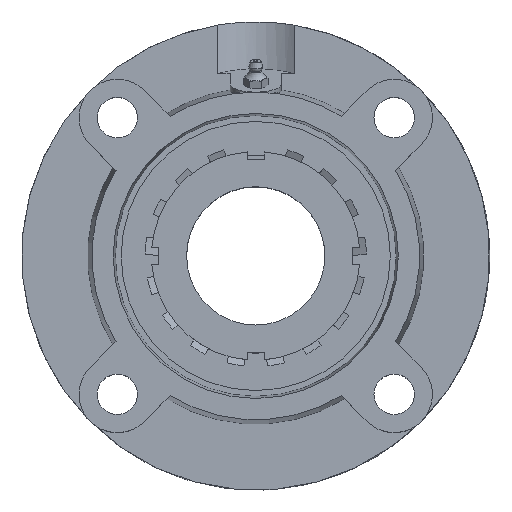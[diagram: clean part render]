
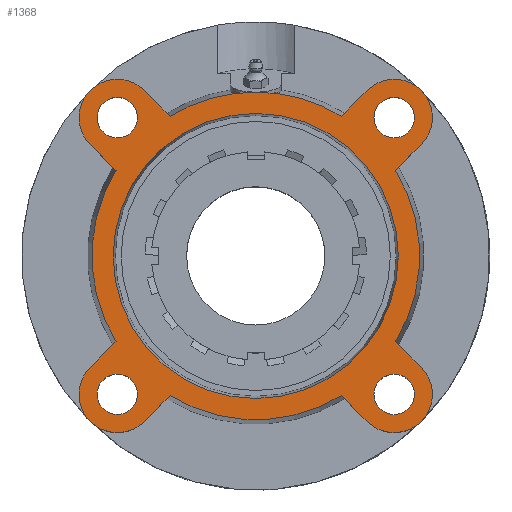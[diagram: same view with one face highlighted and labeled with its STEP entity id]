
A CAD part, top view. The second image highlights one B-rep face of the part: STEP entity #1368.
In plain terms, the highlighted planar face has unit normal (0, 0, 1).
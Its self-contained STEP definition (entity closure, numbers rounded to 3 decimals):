
#181=CARTESIAN_POINT('',(-55.554,-65.054,24.));
#182=VERTEX_POINT('',#181);
#183=CARTESIAN_POINT('',(-65.054,-65.054,24.));
#184=DIRECTION('',(0.0,0.0,-1.0));
#185=DIRECTION('',(1.0,0.0,0.0));
#186=AXIS2_PLACEMENT_3D('',#183,#184,#185);
#187=CIRCLE('',#186,9.5);
#188=EDGE_CURVE('',#182,#182,#187,.T.);
#209=CARTESIAN_POINT('',(-55.554,65.054,24.));
#210=VERTEX_POINT('',#209);
#211=CARTESIAN_POINT('',(-65.054,65.054,24.));
#212=DIRECTION('',(0.0,0.0,-1.0));
#213=DIRECTION('',(1.0,0.0,0.0));
#214=AXIS2_PLACEMENT_3D('',#211,#212,#213);
#215=CIRCLE('',#214,9.5);
#216=EDGE_CURVE('',#210,#210,#215,.T.);
#237=CARTESIAN_POINT('',(74.554,65.054,24.));
#238=VERTEX_POINT('',#237);
#239=CARTESIAN_POINT('',(65.054,65.054,24.));
#240=DIRECTION('',(0.0,0.0,-1.0));
#241=DIRECTION('',(1.0,0.0,0.0));
#242=AXIS2_PLACEMENT_3D('',#239,#240,#241);
#243=CIRCLE('',#242,9.5);
#244=EDGE_CURVE('',#238,#238,#243,.T.);
#265=CARTESIAN_POINT('',(74.554,-65.054,24.));
#266=VERTEX_POINT('',#265);
#267=CARTESIAN_POINT('',(65.054,-65.054,24.));
#268=DIRECTION('',(0.0,0.0,-1.0));
#269=DIRECTION('',(1.0,0.0,0.0));
#270=AXIS2_PLACEMENT_3D('',#267,#268,#269);
#271=CIRCLE('',#270,9.5);
#272=EDGE_CURVE('',#266,#266,#271,.T.);
#373=CARTESIAN_POINT('',(0.0,67.0,24.));
#374=VERTEX_POINT('',#373);
#375=CARTESIAN_POINT('',(0.0,0.,24.0));
#376=DIRECTION('',(0.0,0.0,-1.0));
#377=DIRECTION('',(0.0,1.0,0.0));
#378=AXIS2_PLACEMENT_3D('',#375,#376,#377);
#379=CIRCLE('',#378,67.);
#380=EDGE_CURVE('',#374,#374,#379,.T.);
#666=CARTESIAN_POINT('',(0.,77.0,24.));
#667=VERTEX_POINT('',#666);
#824=CARTESIAN_POINT('',(-40.211,65.667,24.));
#825=VERTEX_POINT('',#824);
#839=CARTESIAN_POINT('',(0.0,0.,24.0));
#840=DIRECTION('',(0.0,0.0,1.0));
#841=DIRECTION('',(0.0,-1.0,0.0));
#842=AXIS2_PLACEMENT_3D('',#839,#840,#841);
#843=CIRCLE('',#842,77.0);
#844=EDGE_CURVE('',#667,#825,#843,.T.);
#854=CARTESIAN_POINT('',(-40.211,-65.667,24.));
#855=VERTEX_POINT('',#854);
#871=CARTESIAN_POINT('',(-52.326,-77.782,24.));
#872=VERTEX_POINT('',#871);
#873=CARTESIAN_POINT('',(-40.211,-65.667,24.));
#874=DIRECTION('',(-0.707,-0.707,0.));
#875=VECTOR('',#874,17.133);
#876=LINE('',#873,#875);
#877=EDGE_CURVE('',#855,#872,#876,.T.);
#901=CARTESIAN_POINT('',(-65.667,40.211,24.));
#902=VERTEX_POINT('',#901);
#918=CARTESIAN_POINT('',(-77.782,52.326,24.));
#919=VERTEX_POINT('',#918);
#920=CARTESIAN_POINT('',(-65.667,40.211,24.));
#921=DIRECTION('',(-0.707,0.707,0.));
#922=VECTOR('',#921,17.133);
#923=LINE('',#920,#922);
#924=EDGE_CURVE('',#902,#919,#923,.T.);
#948=CARTESIAN_POINT('',(65.667,-40.211,24.));
#949=VERTEX_POINT('',#948);
#965=CARTESIAN_POINT('',(77.782,-52.326,24.));
#966=VERTEX_POINT('',#965);
#967=CARTESIAN_POINT('',(65.667,-40.211,24.));
#968=DIRECTION('',(0.707,-0.707,0.));
#969=VECTOR('',#968,17.133);
#970=LINE('',#967,#969);
#971=EDGE_CURVE('',#949,#966,#970,.T.);
#995=CARTESIAN_POINT('',(40.211,65.667,24.));
#996=VERTEX_POINT('',#995);
#1010=CARTESIAN_POINT('',(52.326,77.782,24.));
#1011=VERTEX_POINT('',#1010);
#1012=CARTESIAN_POINT('',(40.211,65.667,24.));
#1013=DIRECTION('',(0.707,0.707,0.));
#1014=VECTOR('',#1013,17.133);
#1015=LINE('',#1012,#1014);
#1016=EDGE_CURVE('',#996,#1011,#1015,.T.);
#1035=CARTESIAN_POINT('',(65.667,40.211,24.));
#1036=VERTEX_POINT('',#1035);
#1058=CARTESIAN_POINT('',(77.782,52.326,24.));
#1059=VERTEX_POINT('',#1058);
#1066=CARTESIAN_POINT('',(77.782,52.326,24.));
#1067=DIRECTION('',(-0.707,-0.707,0.));
#1068=VECTOR('',#1067,17.133);
#1069=LINE('',#1066,#1068);
#1070=EDGE_CURVE('',#1059,#1036,#1069,.T.);
#1080=CARTESIAN_POINT('',(-77.782,-52.326,24.));
#1081=VERTEX_POINT('',#1080);
#1082=CARTESIAN_POINT('',(-65.054,-65.054,24.0));
#1083=DIRECTION('',(0.0,0.0,-1.0));
#1084=DIRECTION('',(-0.707,0.707,0.0));
#1085=AXIS2_PLACEMENT_3D('',#1082,#1083,#1084);
#1086=CIRCLE('',#1085,18.);
#1087=EDGE_CURVE('',#872,#1081,#1086,.T.);
#1122=CARTESIAN_POINT('',(-65.667,-40.211,24.));
#1123=VERTEX_POINT('',#1122);
#1144=CARTESIAN_POINT('',(-77.782,-52.326,24.));
#1145=DIRECTION('',(0.707,0.707,0.));
#1146=VECTOR('',#1145,17.133);
#1147=LINE('',#1144,#1146);
#1148=EDGE_CURVE('',#1081,#1123,#1147,.T.);
#1158=CARTESIAN_POINT('',(-52.326,77.782,24.));
#1159=VERTEX_POINT('',#1158);
#1160=CARTESIAN_POINT('',(-65.054,65.054,24.0));
#1161=DIRECTION('',(0.0,0.0,-1.0));
#1162=DIRECTION('',(0.707,0.707,0.0));
#1163=AXIS2_PLACEMENT_3D('',#1160,#1161,#1162);
#1164=CIRCLE('',#1163,18.0);
#1165=EDGE_CURVE('',#919,#1159,#1164,.T.);
#1193=CARTESIAN_POINT('',(-52.326,77.782,24.));
#1194=DIRECTION('',(0.707,-0.707,0.));
#1195=VECTOR('',#1194,17.133);
#1196=LINE('',#1193,#1195);
#1197=EDGE_CURVE('',#1159,#825,#1196,.T.);
#1207=CARTESIAN_POINT('',(52.326,-77.782,24.));
#1208=VERTEX_POINT('',#1207);
#1209=CARTESIAN_POINT('',(65.054,-65.054,24.0));
#1210=DIRECTION('',(0.0,0.0,-1.0));
#1211=DIRECTION('',(-0.707,-0.707,0.0));
#1212=AXIS2_PLACEMENT_3D('',#1209,#1210,#1211);
#1213=CIRCLE('',#1212,18.0);
#1214=EDGE_CURVE('',#966,#1208,#1213,.T.);
#1249=CARTESIAN_POINT('',(40.211,-65.667,24.));
#1250=VERTEX_POINT('',#1249);
#1271=CARTESIAN_POINT('',(52.326,-77.782,24.));
#1272=DIRECTION('',(-0.707,0.707,0.));
#1273=VECTOR('',#1272,17.133);
#1274=LINE('',#1271,#1273);
#1275=EDGE_CURVE('',#1208,#1250,#1274,.T.);
#1285=CARTESIAN_POINT('',(65.054,65.054,24.0));
#1286=DIRECTION('',(0.0,0.0,-1.0));
#1287=DIRECTION('',(0.707,-0.707,0.0));
#1288=AXIS2_PLACEMENT_3D('',#1285,#1286,#1287);
#1289=CIRCLE('',#1288,18.);
#1290=EDGE_CURVE('',#1011,#1059,#1289,.T.);
#1305=CARTESIAN_POINT('',(0.0,-38.5,24.));
#1306=DIRECTION('',(0.0,0.0,1.0));
#1307=DIRECTION('',(1.0,0.0,0.0));
#1308=AXIS2_PLACEMENT_3D('',#1305,#1306,#1307);
#1309=PLANE('',#1308);
#1310=CARTESIAN_POINT('',(0.0,0.,24.0));
#1311=DIRECTION('',(0.0,0.0,1.0));
#1312=DIRECTION('',(0.0,-1.0,0.0));
#1313=AXIS2_PLACEMENT_3D('',#1310,#1311,#1312);
#1314=CIRCLE('',#1313,77.0);
#1315=EDGE_CURVE('',#855,#1250,#1314,.T.);
#1316=ORIENTED_EDGE('',*,*,#1315,.T.);
#1317=ORIENTED_EDGE('',*,*,#1275,.F.);
#1318=ORIENTED_EDGE('',*,*,#1214,.F.);
#1319=ORIENTED_EDGE('',*,*,#971,.F.);
#1320=CARTESIAN_POINT('',(0.0,0.,24.0));
#1321=DIRECTION('',(0.0,0.0,1.0));
#1322=DIRECTION('',(0.0,-1.0,0.0));
#1323=AXIS2_PLACEMENT_3D('',#1320,#1321,#1322);
#1324=CIRCLE('',#1323,77.0);
#1325=EDGE_CURVE('',#949,#1036,#1324,.T.);
#1326=ORIENTED_EDGE('',*,*,#1325,.T.);
#1327=ORIENTED_EDGE('',*,*,#1070,.F.);
#1328=ORIENTED_EDGE('',*,*,#1290,.F.);
#1329=ORIENTED_EDGE('',*,*,#1016,.F.);
#1330=CARTESIAN_POINT('',(0.0,0.,24.0));
#1331=DIRECTION('',(0.0,0.0,1.0));
#1332=DIRECTION('',(0.0,-1.0,0.0));
#1333=AXIS2_PLACEMENT_3D('',#1330,#1331,#1332);
#1334=CIRCLE('',#1333,77.0);
#1335=EDGE_CURVE('',#996,#667,#1334,.T.);
#1336=ORIENTED_EDGE('',*,*,#1335,.T.);
#1337=ORIENTED_EDGE('',*,*,#844,.T.);
#1338=ORIENTED_EDGE('',*,*,#1197,.F.);
#1339=ORIENTED_EDGE('',*,*,#1165,.F.);
#1340=ORIENTED_EDGE('',*,*,#924,.F.);
#1341=CARTESIAN_POINT('',(0.0,0.,24.0));
#1342=DIRECTION('',(0.0,0.0,1.0));
#1343=DIRECTION('',(0.0,-1.0,0.0));
#1344=AXIS2_PLACEMENT_3D('',#1341,#1342,#1343);
#1345=CIRCLE('',#1344,77.0);
#1346=EDGE_CURVE('',#902,#1123,#1345,.T.);
#1347=ORIENTED_EDGE('',*,*,#1346,.T.);
#1348=ORIENTED_EDGE('',*,*,#1148,.F.);
#1349=ORIENTED_EDGE('',*,*,#1087,.F.);
#1350=ORIENTED_EDGE('',*,*,#877,.F.);
#1351=EDGE_LOOP('',(#1316,#1317,#1318,#1319,#1326,#1327,#1328,#1329,#1336,#1337,#1338,#1339,#1340,#1347,#1348,#1349,#1350));
#1352=FACE_OUTER_BOUND('',#1351,.T.);
#1353=ORIENTED_EDGE('',*,*,#188,.T.);
#1354=EDGE_LOOP('',(#1353));
#1355=FACE_BOUND('',#1354,.T.);
#1356=ORIENTED_EDGE('',*,*,#216,.T.);
#1357=EDGE_LOOP('',(#1356));
#1358=FACE_BOUND('',#1357,.T.);
#1359=ORIENTED_EDGE('',*,*,#244,.T.);
#1360=EDGE_LOOP('',(#1359));
#1361=FACE_BOUND('',#1360,.T.);
#1362=ORIENTED_EDGE('',*,*,#272,.T.);
#1363=EDGE_LOOP('',(#1362));
#1364=FACE_BOUND('',#1363,.T.);
#1365=ORIENTED_EDGE('',*,*,#380,.T.);
#1366=EDGE_LOOP('',(#1365));
#1367=FACE_BOUND('',#1366,.T.);
#1368=ADVANCED_FACE('',(#1352,#1355,#1358,#1361,#1364,#1367),#1309,.T.);
